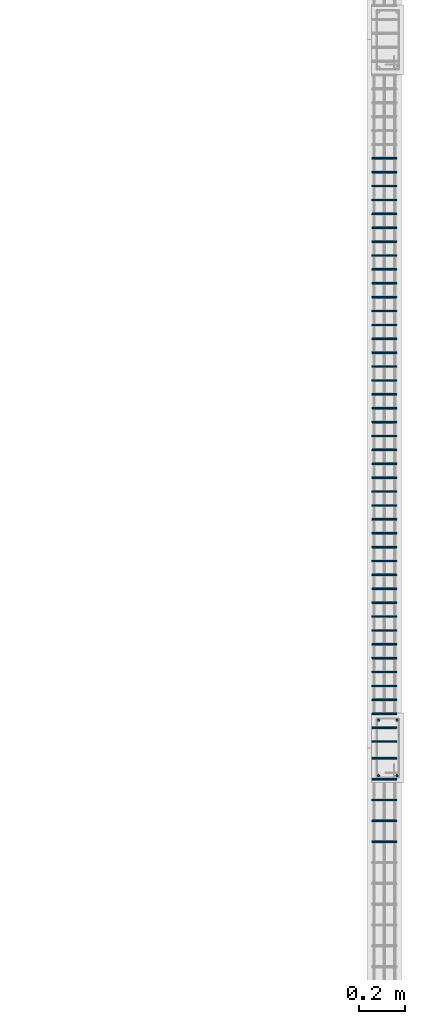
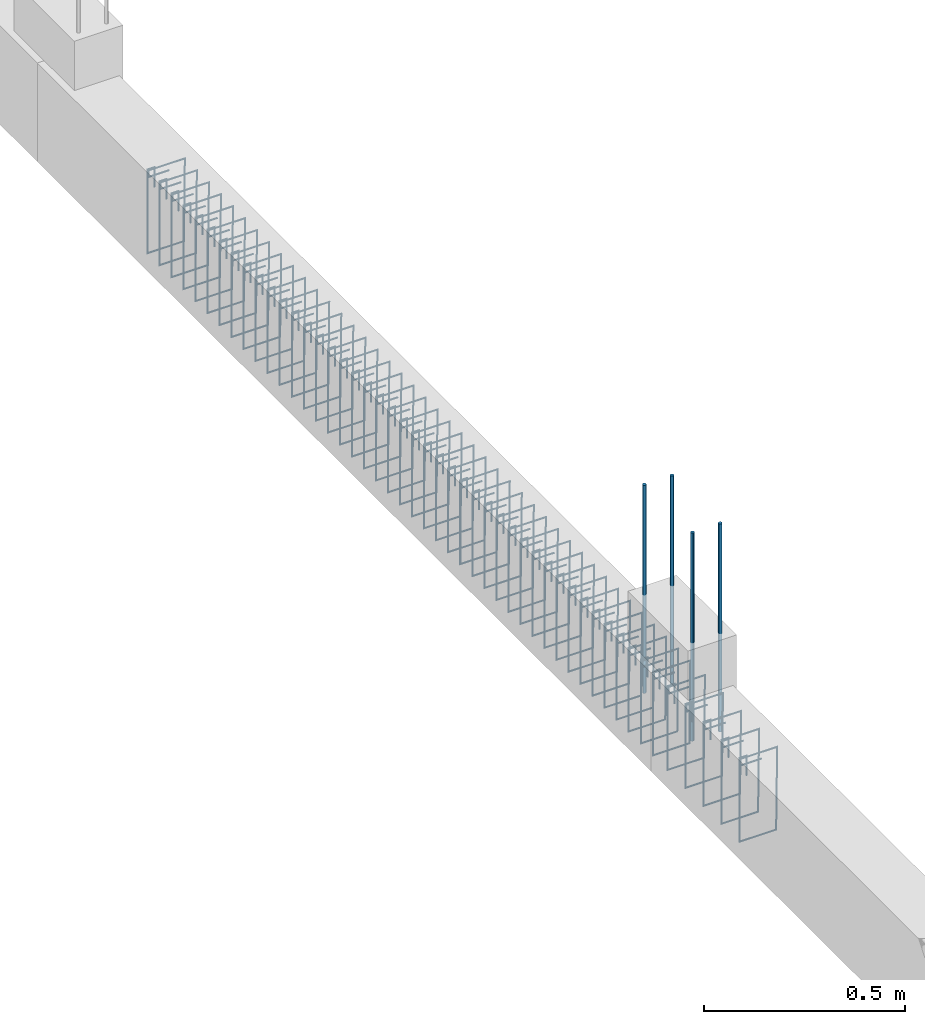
# One storey, part 97 of 150: 52 reinforcing bars.
"""IFC4 building model written with IfcOpenShell, lengths in centimetres."""

from ifc_helpers import new_model, entity, si_unit, derived_unit, frame, origin_with_axes, place, context, project, spatial, source, transform, mapped, element, save


model = new_model("IFC4")

# Units and contexts
model_context = context("Model", 3, precision=1e-05, world=origin_with_axes(), identifier="Body")
ifc_project = project(units=[si_unit("LENGTHUNIT", "METRE", prefix="CENTI"), si_unit("VOLUMEUNIT", "CUBIC_METRE"), si_unit("AREAUNIT", "SQUARE_METRE"), si_unit("POWERUNIT", "WATT"), si_unit("LUMINOUSFLUXUNIT", "LUMEN"), si_unit("ELECTRICCURRENTUNIT", "AMPERE"), si_unit("PRESSUREUNIT", "PASCAL", prefix="KILO"), si_unit("MASSUNIT", "GRAM", prefix="KILO"), si_unit("PLANEANGLEUNIT", "RADIAN"), derived_unit("VOLUMETRICFLOWRATEUNIT", [(si_unit("LENGTHUNIT", "METRE"), 3), (si_unit("TIMEUNIT", "SECOND"), -1)])], contexts=[model_context])

# Site, building, storey
site_placement = place(None, frame((-4000.0, 0.0, 0.0), z_axis=(0.0, 0.0, 1.0), x_axis=(1.0, 0.0, 0.0)))
site = spatial("IfcSite", under=ifc_project, at=site_placement, Name="PADRÃO")
building_placement = place(site_placement, frame((0.0, 0.0, -14.0)))
building = spatial("IfcBuilding", under=site, at=building_placement, Name="CRECHE PRÉ-ESCOLA TIPO 2")
placement = place(building_placement, origin_with_axes())
storey_placement = place(placement, frame((0.0, 0.0, 30.0), z_axis=(0.0, 0.0, 1.0), x_axis=(1.0, 0.0, 0.0)))
storey = spatial("IfcBuildingStorey", under=building, at=storey_placement, Name="VIGA BALDRAME", CompositionType="ELEMENT", Elevation=16.0)

# Reinforcing bars
shared_shape_1 = source(origin_with_axes(), model_context, "Body", "AdvancedSweptSolid", [
    entity("IfcSweptDiskSolid", entity("IfcCompositeCurve", [entity("IfcCompositeCurveSegment", "CONTINUOUS", True, entity("IfcPolyline", [entity("IfcCartesianPoint", [2.0, -6.0, 0.0]), entity("IfcCartesianPoint", [2.0, 0.0, 0.0])])), entity("IfcCompositeCurveSegment", "CONTINUOUS", True, entity("IfcPolyline", [entity("IfcCartesianPoint", [2.0, 0.0, 0.0]), entity("IfcCartesianPoint", [0.0, 0.0, 0.0])])), entity("IfcCompositeCurveSegment", "CONTINUOUS", True, entity("IfcPolyline", [entity("IfcCartesianPoint", [0.0, 0.0, 0.0]), entity("IfcCartesianPoint", [0.0, -25.5, 0.0])])), entity("IfcCompositeCurveSegment", "CONTINUOUS", True, entity("IfcPolyline", [entity("IfcCartesianPoint", [0.0, -25.5, 0.0]), entity("IfcCartesianPoint", [10.5, -25.5, 0.0])])), entity("IfcCompositeCurveSegment", "CONTINUOUS", True, entity("IfcPolyline", [entity("IfcCartesianPoint", [10.5, -25.5, 0.0]), entity("IfcCartesianPoint", [10.5, 0.0, 0.5])])), entity("IfcCompositeCurveSegment", "CONTINUOUS", True, entity("IfcPolyline", [entity("IfcCartesianPoint", [10.5, 0.0, 0.5]), entity("IfcCartesianPoint", [0.0, 0.0, 0.5])])), entity("IfcCompositeCurveSegment", "CONTINUOUS", True, entity("IfcPolyline", [entity("IfcCartesianPoint", [0.0, 0.0, 0.5]), entity("IfcCartesianPoint", [0.0, -2.0, 0.5])])), entity("IfcCompositeCurveSegment", "CONTINUOUS", True, entity("IfcPolyline", [entity("IfcCartesianPoint", [0.0, -2.0, 0.5]), entity("IfcCartesianPoint", [6.0, -2.0, 0.5])]))], False), 0.25),
])
for number, where, z_axis, x_axis, name in (
    (1, (3986.25, 805.81, -17.25), (0.0, -1.0, 0.0), (1.0, 0.0, 0.0), "V230 - Estribo"),
    (2, (3986.25, 814.81, -17.25), (0.0, -1.0, 0.0), (1.0, 0.0, 0.0), "V230 - Estribo"),
    (3, (3986.25, 823.81, -17.25), (0.0, -1.0, 0.0), (1.0, 0.0, 0.0), "V230 - Estribo"),
    (4, (3986.25, 832.81, -17.25), (0.0, -1.0, 0.0), (1.0, 0.0, 0.0), "V230 - Estribo"),
    (5, (3986.25, 841.81, -17.25), (0.0, -1.0, 0.0), (1.0, 0.0, 0.0), "V230 - Estribo"),
):
    element("IfcReinforcingBar", number, at=place(storey_placement, frame(where, z_axis=z_axis, x_axis=x_axis)), inside=storey, Name=name, BarLength=0.0, CrossSectionArea=1.9634954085e-05, NominalDiameter=0.5, PredefinedType="MAIN", context=model_context, shape_type="MappedRepresentation", body=[
        mapped(shared_shape_1, transform((0.0, 0.0, 0.0), scale=1.0)),
    ])
shared_shape_2 = source(origin_with_axes(), model_context, "Body", "AdvancedSweptSolid", [
    entity("IfcSweptDiskSolid", entity("IfcCompositeCurve", [entity("IfcCompositeCurveSegment", "CONTINUOUS", True, entity("IfcPolyline", [entity("IfcCartesianPoint", [2.0, -6.0, 0.0]), entity("IfcCartesianPoint", [2.0, 0.0, 0.0])])), entity("IfcCompositeCurveSegment", "CONTINUOUS", True, entity("IfcPolyline", [entity("IfcCartesianPoint", [2.0, 0.0, 0.0]), entity("IfcCartesianPoint", [0.0, 0.0, 0.0])])), entity("IfcCompositeCurveSegment", "CONTINUOUS", True, entity("IfcPolyline", [entity("IfcCartesianPoint", [0.0, 0.0, 0.0]), entity("IfcCartesianPoint", [0.0, -25.5, 0.0])])), entity("IfcCompositeCurveSegment", "CONTINUOUS", True, entity("IfcPolyline", [entity("IfcCartesianPoint", [0.0, -25.5, 0.0]), entity("IfcCartesianPoint", [10.5, -25.5, 0.0])])), entity("IfcCompositeCurveSegment", "CONTINUOUS", True, entity("IfcPolyline", [entity("IfcCartesianPoint", [10.5, -25.5, 0.0]), entity("IfcCartesianPoint", [10.5, 0.0, 0.5])])), entity("IfcCompositeCurveSegment", "CONTINUOUS", True, entity("IfcPolyline", [entity("IfcCartesianPoint", [10.5, 0.0, 0.5]), entity("IfcCartesianPoint", [0.0, 0.0, 0.5])])), entity("IfcCompositeCurveSegment", "CONTINUOUS", True, entity("IfcPolyline", [entity("IfcCartesianPoint", [0.0, 0.0, 0.5]), entity("IfcCartesianPoint", [0.0, -2.0, 0.5])])), entity("IfcCompositeCurveSegment", "CONTINUOUS", True, entity("IfcPolyline", [entity("IfcCartesianPoint", [0.0, -2.0, 0.5]), entity("IfcCartesianPoint", [6.0, -2.0, 0.5])]))], False), 0.25),
])
for number, where, z_axis, x_axis, name in (
    (6, (3986.25, 939.11, -17.25), (0.0, -1.0, 0.0), (1.0, 0.0, 0.0), "V230 - Estribo"),
    (7, (3986.25, 945.11, -17.25), (0.0, -1.0, 0.0), (1.0, 0.0, 0.0), "V230 - Estribo"),
    (8, (3986.25, 951.11, -17.25), (0.0, -1.0, 0.0), (1.0, 0.0, 0.0), "V230 - Estribo"),
    (9, (3986.25, 957.11, -17.25), (0.0, -1.0, 0.0), (1.0, 0.0, 0.0), "V230 - Estribo"),
    (10, (3986.25, 963.11, -17.25), (0.0, -1.0, 0.0), (1.0, 0.0, 0.0), "V230 - Estribo"),
    (11, (3986.25, 969.11, -17.25), (0.0, -1.0, 0.0), (1.0, 0.0, 0.0), "V230 - Estribo"),
    (12, (3986.25, 975.11, -17.25), (0.0, -1.0, 0.0), (1.0, 0.0, 0.0), "V230 - Estribo"),
    (13, (3986.25, 981.11, -17.25), (0.0, -1.0, 0.0), (1.0, 0.0, 0.0), "V230 - Estribo"),
    (14, (3986.25, 987.11, -17.25), (0.0, -1.0, 0.0), (1.0, 0.0, 0.0), "V230 - Estribo"),
    (15, (3986.25, 993.11, -17.25), (0.0, -1.0, 0.0), (1.0, 0.0, 0.0), "V230 - Estribo"),
    (16, (3986.25, 999.11, -17.25), (0.0, -1.0, 0.0), (1.0, 0.0, 0.0), "V230 - Estribo"),
    (17, (3986.25, 1005.11, -17.25), (0.0, -1.0, 0.0), (1.0, 0.0, 0.0), "V230 - Estribo"),
    (18, (3986.25, 1011.11, -17.25), (0.0, -1.0, 0.0), (1.0, 0.0, 0.0), "V230 - Estribo"),
    (19, (3986.25, 1017.11, -17.25), (0.0, -1.0, 0.0), (1.0, 0.0, 0.0), "V230 - Estribo"),
    (20, (3986.25, 1023.11, -17.25), (0.0, -1.0, 0.0), (1.0, 0.0, 0.0), "V230 - Estribo"),
    (21, (3986.25, 1029.11, -17.25), (0.0, -1.0, 0.0), (1.0, 0.0, 0.0), "V230 - Estribo"),
    (22, (3986.25, 1035.11, -17.25), (0.0, -1.0, 0.0), (1.0, 0.0, 0.0), "V230 - Estribo"),
    (23, (3986.25, 1041.11, -17.25), (0.0, -1.0, 0.0), (1.0, 0.0, 0.0), "V230 - Estribo"),
    (24, (3986.25, 1047.11, -17.25), (0.0, -1.0, 0.0), (1.0, 0.0, 0.0), "V230 - Estribo"),
    (25, (3986.25, 1053.11, -17.25), (0.0, -1.0, 0.0), (1.0, 0.0, 0.0), "V230 - Estribo"),
    (26, (3986.25, 1059.11, -17.25), (0.0, -1.0, 0.0), (1.0, 0.0, 0.0), "V230 - Estribo"),
    (27, (3986.25, 1065.11, -17.25), (0.0, -1.0, 0.0), (1.0, 0.0, 0.0), "V230 - Estribo"),
    (28, (3986.25, 1071.11, -17.25), (0.0, -1.0, 0.0), (1.0, 0.0, 0.0), "V230 - Estribo"),
    (29, (3986.25, 1077.11, -17.25), (0.0, -1.0, 0.0), (1.0, 0.0, 0.0), "V230 - Estribo"),
    (30, (3986.25, 1083.11, -17.25), (0.0, -1.0, 0.0), (1.0, 0.0, 0.0), "V230 - Estribo"),
    (31, (3986.25, 1089.11, -17.25), (0.0, -1.0, 0.0), (1.0, 0.0, 0.0), "V230 - Estribo"),
    (32, (3986.25, 1095.11, -17.25), (0.0, -1.0, 0.0), (1.0, 0.0, 0.0), "V230 - Estribo"),
    (33, (3986.25, 1101.11, -17.25), (0.0, -1.0, 0.0), (1.0, 0.0, 0.0), "V230 - Estribo"),
    (34, (3986.25, 849.11, -17.25), (0.0, -1.0, 0.0), (1.0, 0.0, 0.0), "V230 - Estribo"),
    (35, (3986.25, 855.11, -17.25), (0.0, -1.0, 0.0), (1.0, 0.0, 0.0), "V230 - Estribo"),
    (36, (3986.25, 861.11, -17.25), (0.0, -1.0, 0.0), (1.0, 0.0, 0.0), "V230 - Estribo"),
    (37, (3986.25, 867.11, -17.25), (0.0, -1.0, 0.0), (1.0, 0.0, 0.0), "V230 - Estribo"),
    (38, (3986.25, 873.11, -17.25), (0.0, -1.0, 0.0), (1.0, 0.0, 0.0), "V230 - Estribo"),
    (39, (3986.25, 879.11, -17.25), (0.0, -1.0, 0.0), (1.0, 0.0, 0.0), "V230 - Estribo"),
    (40, (3986.25, 885.11, -17.25), (0.0, -1.0, 0.0), (1.0, 0.0, 0.0), "V230 - Estribo"),
    (41, (3986.25, 891.11, -17.25), (0.0, -1.0, 0.0), (1.0, 0.0, 0.0), "V230 - Estribo"),
    (42, (3986.25, 897.11, -17.25), (0.0, -1.0, 0.0), (1.0, 0.0, 0.0), "V230 - Estribo"),
    (43, (3986.25, 903.11, -17.25), (0.0, -1.0, 0.0), (1.0, 0.0, 0.0), "V230 - Estribo"),
    (44, (3986.25, 909.11, -17.25), (0.0, -1.0, 0.0), (1.0, 0.0, 0.0), "V230 - Estribo"),
    (45, (3986.25, 915.11, -17.25), (0.0, -1.0, 0.0), (1.0, 0.0, 0.0), "V230 - Estribo"),
    (46, (3986.25, 921.11, -17.25), (0.0, -1.0, 0.0), (1.0, 0.0, 0.0), "V230 - Estribo"),
    (47, (3986.25, 927.11, -17.25), (0.0, -1.0, 0.0), (1.0, 0.0, 0.0), "V230 - Estribo"),
    (48, (3986.25, 933.11, -17.25), (0.0, -1.0, 0.0), (1.0, 0.0, 0.0), "V230 - Estribo"),
):
    element("IfcReinforcingBar", number, at=place(storey_placement, frame(where, z_axis=z_axis, x_axis=x_axis)), inside=storey, Name=name, BarLength=0.0, CrossSectionArea=1.9634954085e-05, NominalDiameter=0.5, PredefinedType="MAIN", context=model_context, shape_type="MappedRepresentation", body=[
        mapped(shared_shape_2, transform((0.0, 0.0, 0.0), scale=1.0)),
    ])
for number, where, z_axis, x_axis, name in (
    (49, (3997.0, 858.11, 33.3573001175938), (0.0, 0.0, 1.0), (1.0, 0.0, 0.0), "P130 - Longitudinal"),
    (50, (3989.0, 834.11, 33.3573001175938), (0.0, 0.0, 1.0), (1.0, 0.0, 0.0), "P130 - Longitudinal"),
    (51, (3989.0, 858.11, 33.3573001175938), (0.0, 0.0, 1.0), (1.0, 0.0, 0.0), "P130 - Longitudinal"),
    (52, (3997.0, 834.11, 33.3573001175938), (0.0, 0.0, 1.0), (1.0, 0.0, 0.0), "P130 - Longitudinal"),
):
    element("IfcReinforcingBar", number, at=place(storey_placement, frame(where, z_axis=z_axis, x_axis=x_axis)), inside=storey, Name=name, BarLength=0.0, CrossSectionArea=7.853981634e-05, NominalDiameter=1.0, PredefinedType="MAIN", context=model_context, shape_type="AdvancedSweptSolid", body=[
        entity("IfcSweptDiskSolid", entity("IfcCompositeCurve", [entity("IfcCompositeCurveSegment", "CONTINUOUS", True, entity("IfcPolyline", [entity("IfcCartesianPoint", [0.0, 0.0, -63.3573001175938]), entity("IfcCartesianPoint", [0.0, 0.0, 0.0])]))], False), 0.5),
    ])

save(model, "model.ifc")
